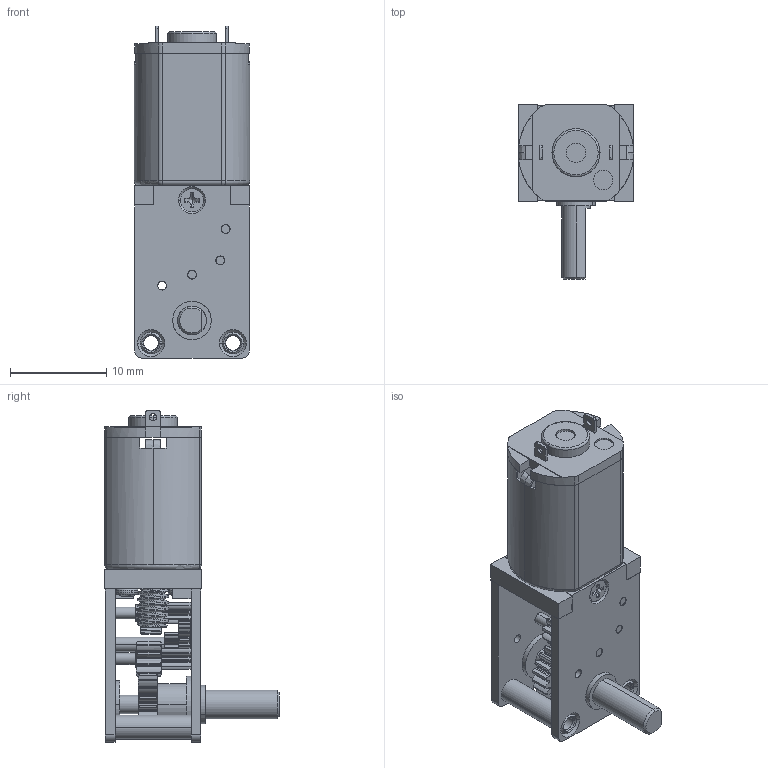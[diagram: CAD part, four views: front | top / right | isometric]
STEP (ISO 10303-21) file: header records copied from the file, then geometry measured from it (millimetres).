
FILE_DESCRIPTION (( 'STEP AP203' ), '1' );
FILE_NAME ('N20 Right Angle Gear Motor 42to1.STEP', '2025-05-01T15:02:43', ( '' ), ( '' ), 'SwSTEP 2.0', 'SolidWorks 2022', '' );
FILE_SCHEMA (( 'CONFIG_CONTROL_DESIGN' ));
Length unit declared in the file: millimetre
Products named in the file (19): N20 Right Angle Gearbox - Bottom Plate; N20 Right Angle Gearbox - Bottom Plate Bushing; N20 Right Angle Gearbox - Top Plate Bushing; Gear 0.3M 21T - 20 Degree Pressure Angle_2664N327; N20 Right Angle Gearbox - Output Shaft; N20 DC Motor Face Adaptor; Gear 0.3M 10T - 20 Degree Pressure Angle_2664N327; N20 Right Angle Gearbox - Output Shaft Bushing; Worm Gear 0.2M 20T - 1mm ID_2664N327; Gear 0.2M 10T - 20 Degree Pressure Angle_2664N327; N20 Right Angle Gear Motor 42to1; N20 Micro DC Motor new; Gear 0.2M 9T - 20 Degree Pressure Angle_2664N327; N20 Right Angle Gearbox - 7.9mm Spacer; Worm 0.2M x 3.25mm OD x 1mm ID; M1.6 x 2.5mm Lg Flat Head Screws JIS; Gear 0.2M 23T - 20 Degree Pressure Angle_2664N327; N20 Right Angle Gearbox - Top Plate; M1.4 x 3mm Lg Pan Head Screws JIS
Assembly tree (22 placements, depth 2):
  N20 Right Angle Gear Motor 42to1
    N20 Micro DC Motor new
    N20 DC Motor Face Adaptor
    M1.4 x 3mm Lg Pan Head Screws JIS  x2
    N20 Right Angle Gearbox - Top Plate
    N20 Right Angle Gearbox - Bottom Plate
    M1.6 x 2.5mm Lg Flat Head Screws JIS  x2
    N20 Right Angle Gearbox - 7.9mm Spacer  x2
    N20 Right Angle Gearbox - Bottom Plate Bushing
    N20 Right Angle Gearbox - Top Plate Bushing
    N20 Right Angle Gearbox - Output Shaft Bushing
    Worm 0.2M x 3.25mm OD x 1mm ID
    Worm Gear 0.2M 20T - 1mm ID_2664N327
    Gear 0.2M 9T - 20 Degree Pressure Angle_2664N327  x2
    Gear 0.2M 23T - 20 Degree Pressure Angle_2664N327
    Gear 0.3M 10T - 20 Degree Pressure Angle_2664N327
    Gear 0.3M 21T - 20 Degree Pressure Angle_2664N327
    Gear 0.2M 10T - 20 Degree Pressure Angle_2664N327
    N20 Right Angle Gearbox - Output Shaft
Bounding box: 12 x 18.1 x 34.5 mm (x, y, z)
Volume: 1213.2 mm3; surface area: 4180.4 mm2
Topology: 23 solids, 23 shells, 1513 faces, 4209 edges, 2760 vertices
Faces by surface type: cylinder 770, plane 328, cone 248, bspline 127, torus 36, sphere 4
Entity records: 50105 total; most frequent: CARTESIAN_POINT 15441, ORIENTED_EDGE 7200, DIRECTION 6776, EDGE_CURVE 3600, AXIS2_PLACEMENT_3D 2783, VERTEX_POINT 2366, CIRCLE 1590, EDGE_LOOP 1376
